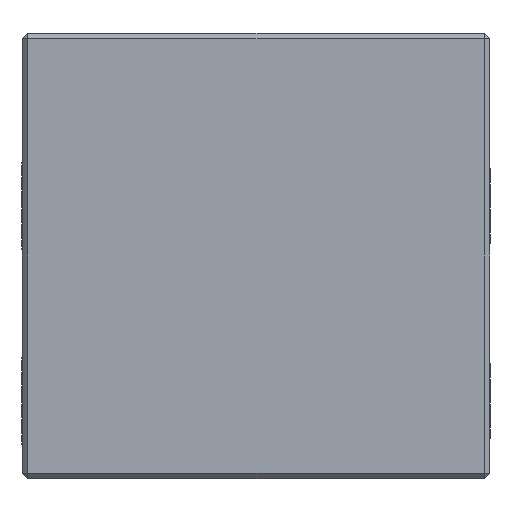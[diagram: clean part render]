
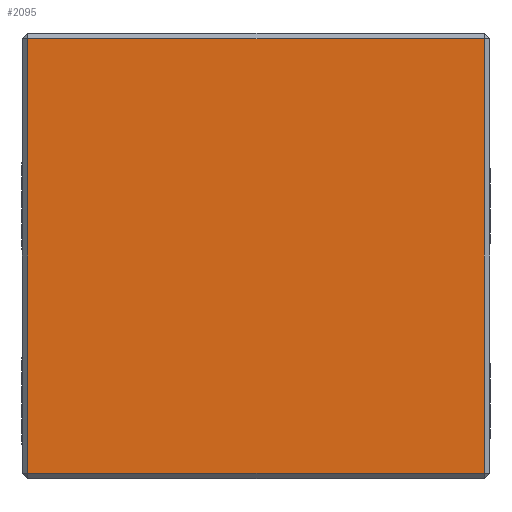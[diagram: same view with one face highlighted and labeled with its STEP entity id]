
A CAD part, left-side view. The second image highlights one B-rep face of the part: STEP entity #2095.
In plain terms, the highlighted planar face has unit normal (-1, 0, 0).
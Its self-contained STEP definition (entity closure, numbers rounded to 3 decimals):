
#221 = CARTESIAN_POINT ( 'NONE',  ( -60., -41., -39. ) ) ;
#226 = EDGE_CURVE ( 'NONE', #1697, #2049, #1192, .T. ) ;
#272 = EDGE_CURVE ( 'NONE', #2601, #2751, #2515, .T. ) ;
#333 = EDGE_LOOP ( 'NONE', ( #2457, #1936, #2648, #2427 ) ) ;
#340 = AXIS2_PLACEMENT_3D ( 'NONE', #221, #1528, #2418 ) ;
#375 = DIRECTION ( 'NONE',  ( 0., -1., 0. ) ) ;
#425 = EDGE_CURVE ( 'NONE', #2751, #1697, #1695, .T. ) ;
#478 = CARTESIAN_POINT ( 'NONE',  ( -60., -41., -39. ) ) ;
#503 = CARTESIAN_POINT ( 'NONE',  ( -60., 41., 39. ) ) ;
#544 = CARTESIAN_POINT ( 'NONE',  ( -60., 41., -39. ) ) ;
#556 = VECTOR ( 'NONE', #1364, 1000. ) ;
#639 = CARTESIAN_POINT ( 'NONE',  ( -60., 41., -39. ) ) ;
#642 = PLANE ( 'NONE',  #340 ) ;
#721 = DIRECTION ( 'NONE',  ( 0., 0., 1. ) ) ;
#795 = VECTOR ( 'NONE', #721, 1000. ) ;
#986 = DIRECTION ( 'NONE',  ( 0., 0., -1. ) ) ;
#1157 = EDGE_CURVE ( 'NONE', #2049, #2601, #2074, .T. ) ;
#1192 = LINE ( 'NONE', #1849, #2058 ) ;
#1364 = DIRECTION ( 'NONE',  ( 0., 1., 0. ) ) ;
#1528 = DIRECTION ( 'NONE',  ( 1., 0., 0. ) ) ;
#1539 = FACE_OUTER_BOUND ( 'NONE', #333, .T. ) ;
#1695 = LINE ( 'NONE', #2107, #2503 ) ;
#1697 = VERTEX_POINT ( 'NONE', #2135 ) ;
#1849 = CARTESIAN_POINT ( 'NONE',  ( -60., -41., 39. ) ) ;
#1936 = ORIENTED_EDGE ( 'NONE', *, *, #425, .F. ) ;
#2049 = VERTEX_POINT ( 'NONE', #2342 ) ;
#2058 = VECTOR ( 'NONE', #986, 1000. ) ;
#2074 = LINE ( 'NONE', #478, #556 ) ;
#2095 = ADVANCED_FACE ( 'NONE', ( #1539 ), #642, .F. ) ;
#2107 = CARTESIAN_POINT ( 'NONE',  ( -60., 41., 39. ) ) ;
#2135 = CARTESIAN_POINT ( 'NONE',  ( -60., -41., 39. ) ) ;
#2342 = CARTESIAN_POINT ( 'NONE',  ( -60., -41., -39. ) ) ;
#2418 = DIRECTION ( 'NONE',  ( 0., 1., 0. ) ) ;
#2427 = ORIENTED_EDGE ( 'NONE', *, *, #1157, .F. ) ;
#2457 = ORIENTED_EDGE ( 'NONE', *, *, #226, .F. ) ;
#2503 = VECTOR ( 'NONE', #375, 1000. ) ;
#2515 = LINE ( 'NONE', #544, #795 ) ;
#2601 = VERTEX_POINT ( 'NONE', #639 ) ;
#2648 = ORIENTED_EDGE ( 'NONE', *, *, #272, .F. ) ;
#2751 = VERTEX_POINT ( 'NONE', #503 ) ;
